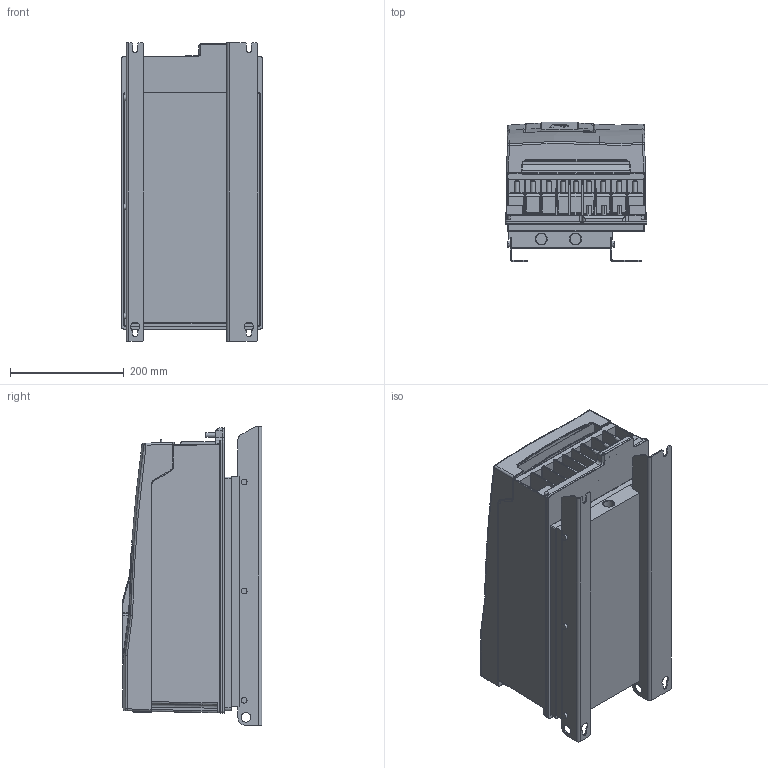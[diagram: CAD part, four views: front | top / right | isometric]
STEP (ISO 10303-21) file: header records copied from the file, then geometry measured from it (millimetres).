
FILE_DESCRIPTION (( 'STEP AP214' ), '1' );
FILE_NAME ('F6-6TK0-K000.STEP', '2024-06-10T07:37:19', ( '' ), ( '' ), 'SwSTEP 2.0', 'SolidWorks 2022', '' );
FILE_SCHEMA (( 'AUTOMOTIVE_DESIGN' ));
Length unit declared in the file: millimetre
Products named in the file (13): Kundenmodell^10077991_000; 10035735_000_Kundenmodell; F6-6TK0-K000; 10061793_000_Deckelbaugruppe F6-6 (Kundenmodell); Kundenmodell^10059764_000; 10077991_000_Kundenmodell; Kundenmodell^10061793_000; Kundemmodell^10027377_000; Kundenmodell^10027052_000; 10027377_000_Kundenmodell; 10059764_000_Blindabdeckung (Kundenmodell); 10027052_000_Gehäusebaugruppe F6-6 (Kundenmodell); Kundenmodell^10035735_000
Assembly tree (12 placements, depth 4):
  F6-6TK0-K000
    10077991_000_Kundenmodell
      10027377_000_Kundenmodell
        Kundemmodell^10027377_000
      Kundenmodell^10077991_000
    10027052_000_Gehäusebaugruppe F6-6 (Kundenmodell)
      10061793_000_Deckelbaugruppe F6-6 (Kundenmodell)
        Kundenmodell^10061793_000
      Kundenmodell^10027052_000
    10035735_000_Kundenmodell
      10059764_000_Blindabdeckung (Kundenmodell)
        Kundenmodell^10059764_000
      Kundenmodell^10035735_000
Bounding box: 249 x 245.46 x 525 mm (x, y, z)
Volume: 21185812.2 mm3; surface area: 1397020.7 mm2
Topology: 16 solids, 44 shells, 3267 faces, 8126 edges, 4867 vertices
Faces by surface type: cylinder 1171, plane 1082, bspline 581, torus 161, cone 139, sphere 133
Entity records: 108849 total; most frequent: CARTESIAN_POINT 36112, ORIENTED_EDGE 15928, DIRECTION 14136, EDGE_CURVE 7964, AXIS2_PLACEMENT_3D 5140, VERTEX_POINT 4865, VECTOR 3856, LINE 3856
